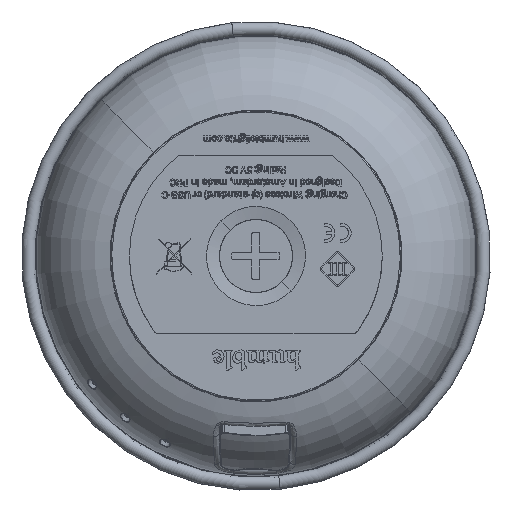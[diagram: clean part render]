
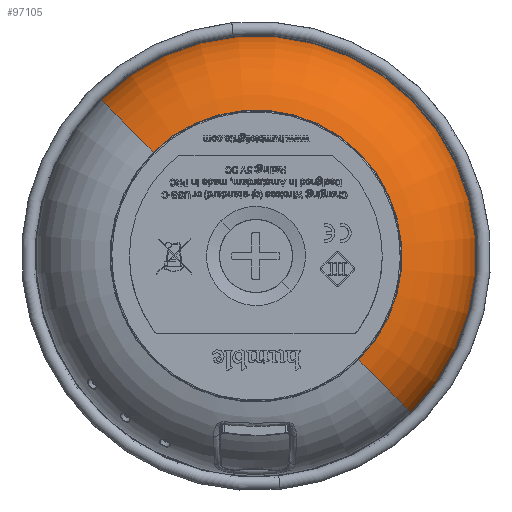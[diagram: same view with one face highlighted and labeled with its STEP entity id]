
A CAD part, front view. The second image highlights one B-rep face of the part: STEP entity #97105.
In plain terms, the highlighted toroidal (fillet/blend) face has major radius 24.7 mm and minor radius 17.5 mm.
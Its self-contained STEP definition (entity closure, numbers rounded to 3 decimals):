
#755 = CARTESIAN_POINT ( 'NONE',  ( -22.222, -6.76, 99.471 ) ) ;
#1875 = CIRCLE ( 'NONE', #140391, 28. ) ;
#2088 = CARTESIAN_POINT ( 'NONE',  ( -12.317, 3.035, 119.718 ) ) ;
#3963 = CARTESIAN_POINT ( 'NONE',  ( 7.592, 22.723, 119.718 ) ) ;
#13359 = DIRECTION ( 'NONE',  ( 0.134, 0.133, 0.982 ) ) ;
#13396 = DIRECTION ( 'NONE',  ( -0.703, 0.711, 0. ) ) ;
#14544 = ORIENTED_EDGE ( 'NONE', *, *, #81481, .T. ) ;
#19599 = AXIS2_PLACEMENT_3D ( 'NONE', #74411, #48374, #109903 ) ;
#20574 = AXIS2_PLACEMENT_3D ( 'NONE', #140823, #32864, #32090 ) ;
#28622 = CIRCLE ( 'NONE', #33680, 28. ) ;
#31449 = ORIENTED_EDGE ( 'NONE', *, *, #33302, .T. ) ;
#32090 = DIRECTION ( 'NONE',  ( -0.7, -0.692, -0.175 ) ) ;
#32325 = CARTESIAN_POINT ( 'NONE',  ( 7.592, 22.723, 99.471 ) ) ;
#32864 = DIRECTION ( 'NONE',  ( -0.703, 0.711, 0. ) ) ;
#33302 = EDGE_CURVE ( 'NONE', #61994, #86609, #110350, .T. ) ;
#33680 = AXIS2_PLACEMENT_3D ( 'NONE', #3963, #100293, #102609 ) ;
#33923 = EDGE_LOOP ( 'NONE', ( #31449, #128855, #45925, #146782, #14544, #52933 ) ) ;
#41079 = EDGE_CURVE ( 'NONE', #145178, #127952, #1875, .T. ) ;
#45925 = ORIENTED_EDGE ( 'NONE', *, *, #41079, .T. ) ;
#46104 = AXIS2_PLACEMENT_3D ( 'NONE', #145932, #60770, #13359 ) ;
#47748 = AXIS2_PLACEMENT_3D ( 'NONE', #130962, #121557, #13396 ) ;
#48374 = DIRECTION ( 'NONE',  ( 0., 0., 1. ) ) ;
#49449 = DIRECTION ( 'NONE',  ( -0.711, -0.703, 0. ) ) ;
#52933 = ORIENTED_EDGE ( 'NONE', *, *, #71390, .F. ) ;
#58468 = CIRCLE ( 'NONE', #20574, 17.5 ) ;
#59918 = TOROIDAL_SURFACE ( 'NONE', #19599, 24.7, 17.5 ) ;
#60770 = DIRECTION ( 'NONE',  ( -0.703, 0.711, 0. ) ) ;
#61994 = VERTEX_POINT ( 'NONE', #126710 ) ;
#71390 = EDGE_CURVE ( 'NONE', #61994, #122702, #108229, .T. ) ;
#72596 = CARTESIAN_POINT ( 'NONE',  ( 37.407, 52.206, 99.471 ) ) ;
#74411 = CARTESIAN_POINT ( 'NONE',  ( 7.592, 22.723, 102.532 ) ) ;
#75704 = CARTESIAN_POINT ( 'NONE',  ( -12.096, 42.633, 119.718 ) ) ;
#75730 = EDGE_CURVE ( 'NONE', #127952, #117034, #28622, .T. ) ;
#80410 = DIRECTION ( 'NONE',  ( -0.703, 0.711, 0. ) ) ;
#81481 = EDGE_CURVE ( 'NONE', #117034, #122702, #121643, .T. ) ;
#86609 = VERTEX_POINT ( 'NONE', #755 ) ;
#92679 = AXIS2_PLACEMENT_3D ( 'NONE', #32325, #105641, #80410 ) ;
#97105 = ADVANCED_FACE ( 'NONE', ( #98860 ), #59918, .T. ) ;
#97600 = CARTESIAN_POINT ( 'NONE',  ( 7.592, 22.723, 119.718 ) ) ;
#98860 = FACE_OUTER_BOUND ( 'NONE', #33923, .T. ) ;
#100293 = DIRECTION ( 'NONE',  ( 0., 0., -1. ) ) ;
#102609 = DIRECTION ( 'NONE',  ( -0.703, 0.711, 0. ) ) ;
#105641 = DIRECTION ( 'NONE',  ( 0., 0., 1. ) ) ;
#108229 = CIRCLE ( 'NONE', #47748, 41.93 ) ;
#109903 = DIRECTION ( 'NONE',  ( -0.711, -0.703, 0. ) ) ;
#110350 = CIRCLE ( 'NONE', #92679, 41.93 ) ;
#117034 = VERTEX_POINT ( 'NONE', #132468 ) ;
#121557 = DIRECTION ( 'NONE',  ( 0., 0., -1. ) ) ;
#121643 = CIRCLE ( 'NONE', #46104, 17.5 ) ;
#121973 = DIRECTION ( 'NONE',  ( 0., 0., -1. ) ) ;
#122702 = VERTEX_POINT ( 'NONE', #72596 ) ;
#126710 = CARTESIAN_POINT ( 'NONE',  ( -21.891, 52.538, 99.471 ) ) ;
#127952 = VERTEX_POINT ( 'NONE', #75704 ) ;
#128855 = ORIENTED_EDGE ( 'NONE', *, *, #139980, .T. ) ;
#130962 = CARTESIAN_POINT ( 'NONE',  ( 7.592, 22.723, 99.471 ) ) ;
#132468 = CARTESIAN_POINT ( 'NONE',  ( 27.501, 42.411, 119.718 ) ) ;
#139980 = EDGE_CURVE ( 'NONE', #86609, #145178, #58468, .T. ) ;
#140391 = AXIS2_PLACEMENT_3D ( 'NONE', #97600, #121973, #49449 ) ;
#140823 = CARTESIAN_POINT ( 'NONE',  ( -9.971, 5.356, 102.532 ) ) ;
#145178 = VERTEX_POINT ( 'NONE', #2088 ) ;
#145932 = CARTESIAN_POINT ( 'NONE',  ( 25.155, 40.091, 102.532 ) ) ;
#146782 = ORIENTED_EDGE ( 'NONE', *, *, #75730, .T. ) ;
